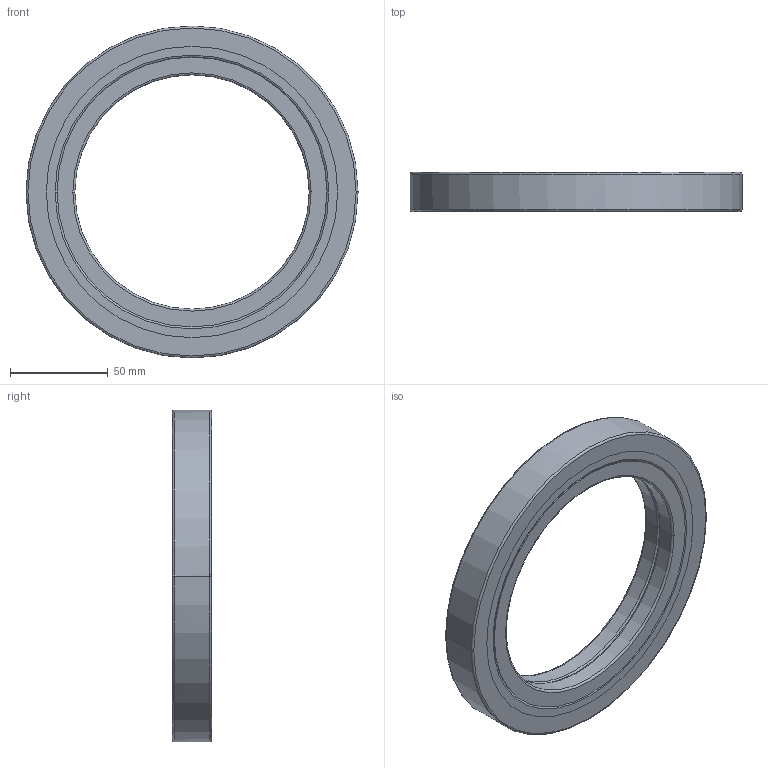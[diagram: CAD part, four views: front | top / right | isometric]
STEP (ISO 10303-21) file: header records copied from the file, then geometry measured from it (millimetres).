
FILE_DESCRIPTION(('no description'),'unknown implementation level');
FILE_NAME('CRBB12020_66.stp',' ',('HIWIN GmbH'),('CADClick - KiM GmbH - www.kimweb.de'),'unknown preprocess','ACIS','unknown authorization');
FILE_SCHEMA(('automotive_design'));
Length unit declared in the file: millimetre
Products named in the file (5): CRBB12020_1; CRBB12020_2; CRBB12020_3; CRBB12020_4; CRBB12020
Bounding box: 170 x 20 x 170 mm (x, y, z)
Volume: 226838.1 mm3; surface area: 87612.6 mm2
Topology: 5 solids, 5 shells, 70 faces, 160 edges, 100 vertices
Faces by surface type: torus 40, cylinder 20, plane 10
Entity records: 4040 total; most frequent: DIRECTION 450, STYLED_ITEM 335, PRESENTATION_STYLE_ASSIGNMENT 335, CARTESIAN_POINT 335, COLOUR_RGB 335, ORIENTED_EDGE 320, AXIS2_PLACEMENT_3D 215, EDGE_CURVE 160
